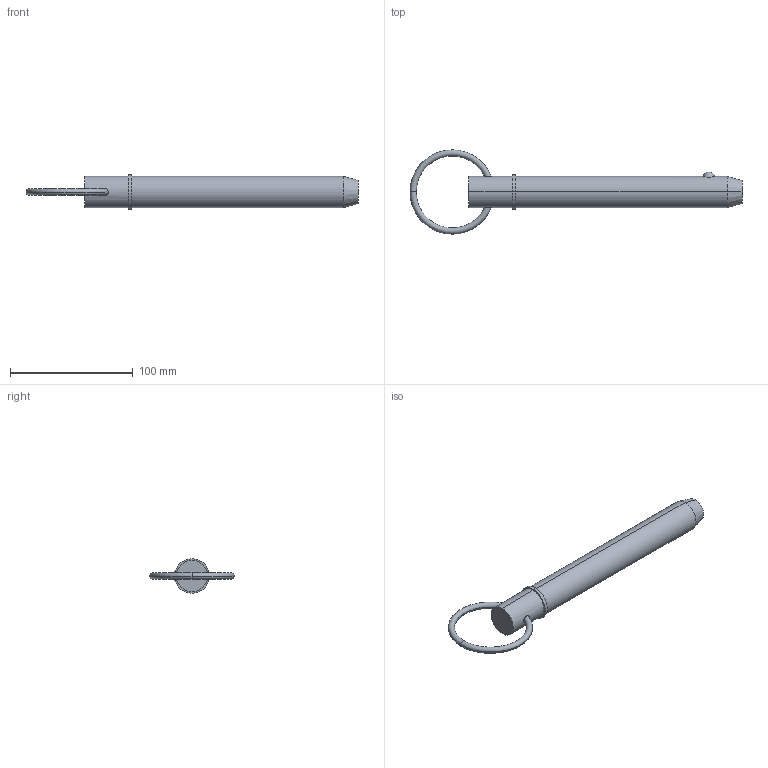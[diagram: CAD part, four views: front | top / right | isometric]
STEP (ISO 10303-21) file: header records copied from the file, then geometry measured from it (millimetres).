
FILE_DESCRIPTION (( 'STEP AP203' ), '1' );
FILE_NAME ('33014.W1060.step', '2024-11-04T08:40:18', ( '' ), ( '' ), 'SwSTEP 2.0', 'SolidWorks 2019', '' );
FILE_SCHEMA (( 'CONFIG_CONTROL_DESIGN' ));
Length unit declared in the file: millimetre
Products named in the file (3): Part1_33014.W1060; 33014.W1060; Part2_33014.W1060
Assembly tree (2 placements, depth 2):
  33014.W1060
    Part1_33014.W1060
    Part2_33014.W1060
Bounding box: 270.02 x 68.58 x 27.94 mm (x, y, z)
Volume: 114893.4 mm3; surface area: 22347.4 mm2
Topology: 2 solids, 2 shells, 22 faces, 43 edges, 26 vertices
Faces by surface type: torus 8, cylinder 6, plane 4, sphere 2, cone 2
Entity records: 1075 total; most frequent: CARTESIAN_POINT 298, DIRECTION 120, ORIENTED_EDGE 86, AXIS2_PLACEMENT_3D 56, EDGE_CURVE 43, CIRCLE 29, EDGE_LOOP 27, VERTEX_POINT 26
